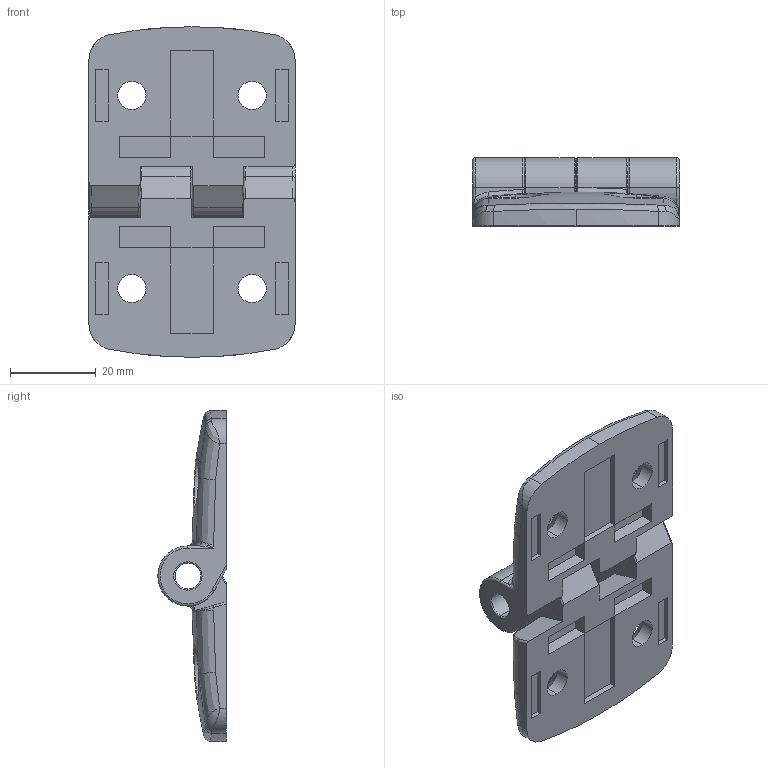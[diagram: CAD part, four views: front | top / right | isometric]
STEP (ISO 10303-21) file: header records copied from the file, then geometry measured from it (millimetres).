
FILE_DESCRIPTION(('STEP AP214'),'1');
FILE_NAME('C:/TPO v2/SharedFS/Outgoing/fath_095k4040f00.stp','2016-05-27T09:01:03',('TraceParts'),('TraceParts S.A.'),'Spatial InterOp 3D',' ',' ');
FILE_SCHEMA(('automotive_design'));
Length unit declared in the file: millimetre
Products named in the file (2): 095k4040f00|NAUO1#095k40f00_095 k 40 f00;Stegauflage; 095k4040f00|NAUO2#095k40f00_095 k 40 f00;Stegauflage
Bounding box: 48 x 15.9 x 77 mm (x, y, z)
Volume: 23291.9 mm3; surface area: 12116.7 mm2
Topology: 2 solids, 2 shells, 214 faces, 540 edges, 330 vertices
Faces by surface type: plane 74, cylinder 58, bspline 46, torus 28, cone 8
Entity records: 10464 total; most frequent: CARTESIAN_POINT 3976, ORIENTED_EDGE 1068, DIRECTION 866, EDGE_CURVE 534, VERTEX_POINT 330, AXIS2_PLACEMENT_3D 318, EDGE_LOOP 236, LINE 230
